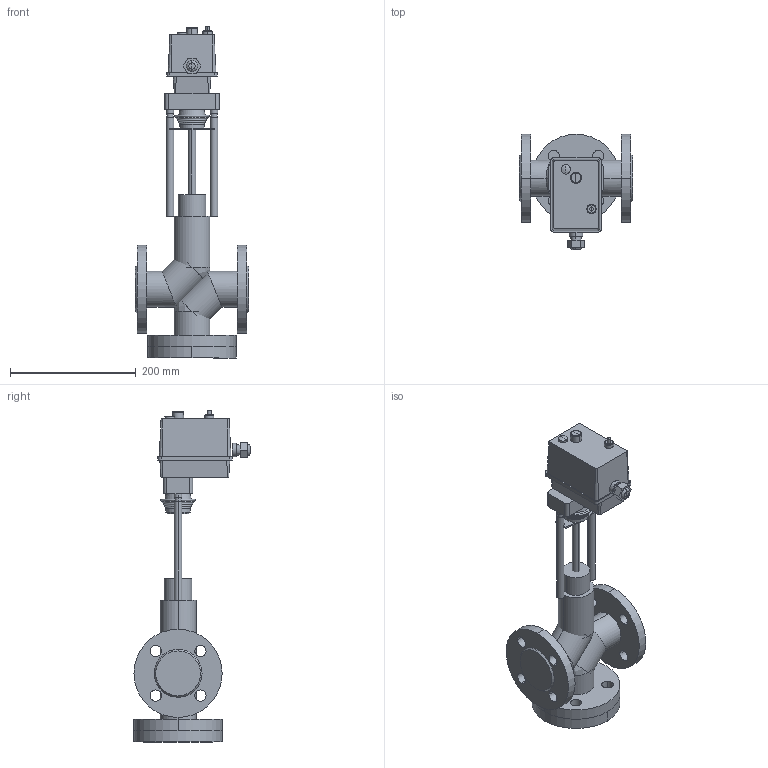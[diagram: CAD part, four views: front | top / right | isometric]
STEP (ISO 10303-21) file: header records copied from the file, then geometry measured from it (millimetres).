
FILE_DESCRIPTION(/* description */ (''),/* implementation_level */ '2;1');
FILE_NAME(/* name */ 'ТРК DN32 PN 2.5 МПа Regada ST MINI',/* time_stamp */ '2026-07-14T23:16:43+03:00',/* author */ (''),/* organization */ (''),/* preprocessor_version */ 'ST-DEVELOPER v20',/* originating_system */ '',/* authorisation */ '');
FILE_SCHEMA (('AP242_MANAGED_MODEL_BASED_3D_ENGINEERING_MIM_LF { 1 0 10303 442 1 1 4 }'));
Length unit declared in the file: millimetre
Products named in the file (14): TopLevelAssembly; Выдавливание; Модификатор; Модификатор_1; Выдавливание_
1; Выдавливание_
2; Вращение; Выдавливание_
3; Выдавливание_
4; Привод_Regada ST Mini; Переход; Объемная геометрия 
присоединена; Полый Выдавливание; Объемная геометрия 
присоединена_1
Assembly tree (13 placements, depth 2):
  TopLevelAssembly
    Выдавливание
    Модификатор
    Модификатор_1
    Выдавливание_
1
    Выдавливание_
2
    Вращение
    Выдавливание_
3
    Выдавливание_
4
    Привод_Regada ST Mini
    Переход
    Объемная геометрия 
присоединена
    Полый Выдавливание
    Объемная геометрия 
присоединена_1
Bounding box: 180 x 184.17 x 527 mm (x, y, z)
Volume: 2885662.8 mm3; surface area: 408507.2 mm2
Topology: 28 solids, 28 shells, 248 faces, 503 edges, 302 vertices
Faces by surface type: plane 122, cylinder 88, bspline 30, cone 8
Entity records: 7444 total; most frequent: CARTESIAN_POINT 1636, DIRECTION 1239, ORIENTED_EDGE 986, AXIS2_PLACEMENT_3D 501, EDGE_CURVE 493, VERTEX_POINT 302, EDGE_LOOP 278, FACE_OUTER_BOUND 248
